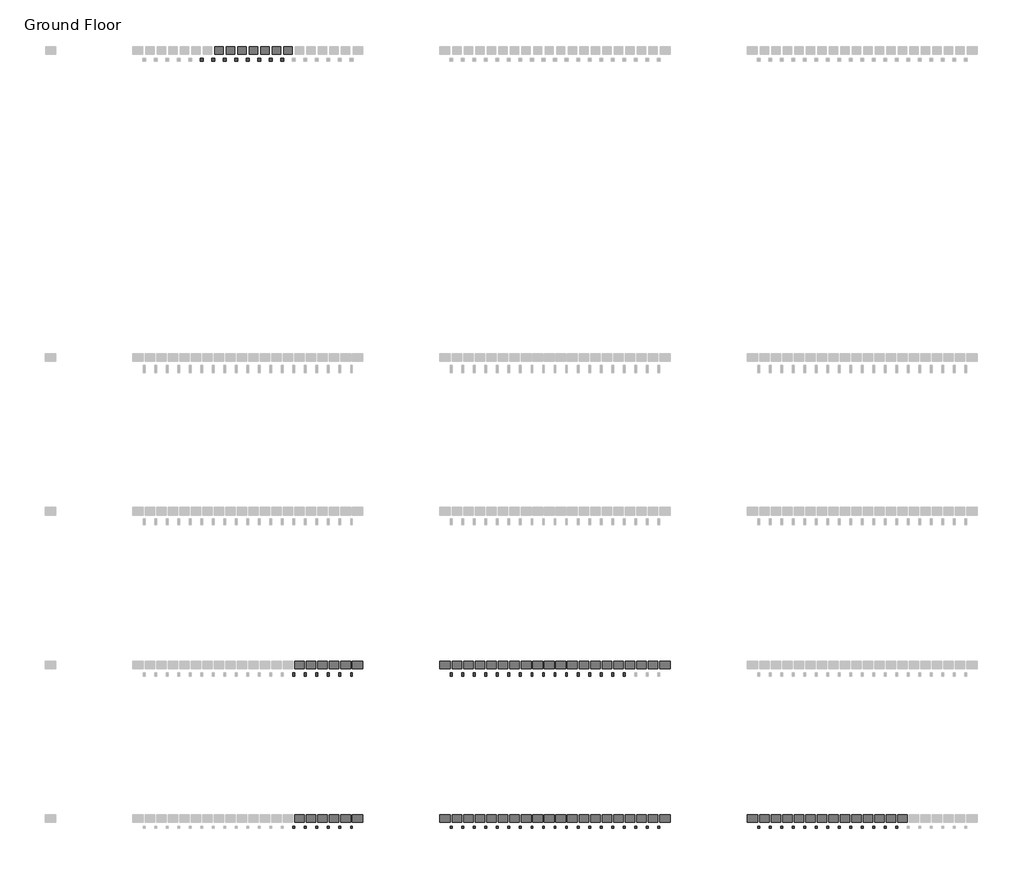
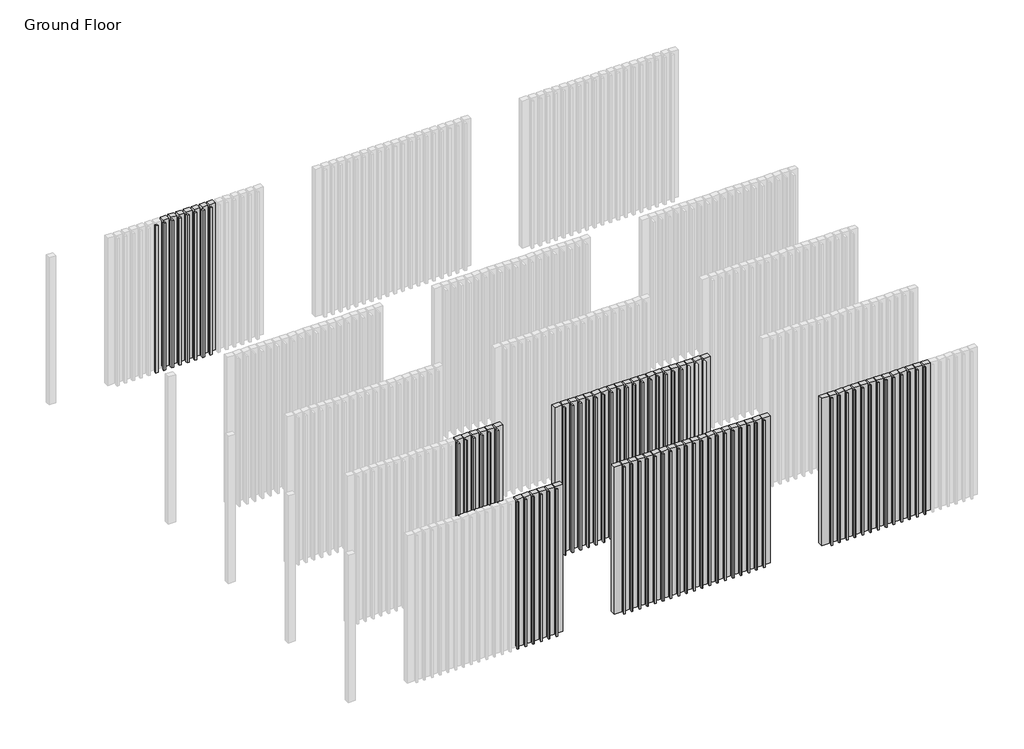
# One storey, part 6 of 350: 73 plates, 68 members.
"""IFC4 building model written with IfcOpenShell, lengths in millimetres."""

from ifc_helpers import new_model, si_unit, origin, place, context, project, spatial, transform, mapped, element, save
from components import rectangular_mullion_ec047115, rectangular_mullion_5535ef50, rectangular_mullion_5b385907, empty_system_panel_empty_db8e642d, empty_system_panel_empty_1b6afc67, empty_system_panel_empty_4d48d162, empty_system_panel_empty_6da6c4cd

model = new_model("IFC4")

# Units and contexts
model_context = context("Model", 3, world=origin())
ifc_project = project(units=[si_unit("LENGTHUNIT", "METRE", prefix="MILLI")], contexts=[model_context])

# Site, building, storey
site = spatial("IfcSite", under=ifc_project)
building = spatial("IfcBuilding", under=site)
storey = spatial("IfcBuildingStorey", under=building, Name="Ground Floor", Elevation=0.0)

# Members
placement = place(None, origin())
rectangular_mullion_shape = rectangular_mullion_ec047115(model_context)
element("IfcMember", 1, ObjectType="Rectangular Mullion : Batten_Aluminium_Modinex_AluBatten_25x25_SpottedGum", at=placement, inside=storey, context=model_context, shape_type="MappedRepresentation", body=[
    mapped(rectangular_mullion_shape, transform((16016.4361642, 4968.2978302, 0.0), x_axis=(1.0, 0.0, 0.0), y_axis=(0.0, -1.0, 0.0), z_axis=(0.0, 0.0, -1.0))),
])
element("IfcMember", 2, ObjectType="Rectangular Mullion : Batten_Aluminium_Modinex_AluBatten_25x25_SpottedGum", at=placement, inside=storey, context=model_context, shape_type="MappedRepresentation", body=[
    mapped(rectangular_mullion_shape, transform((16166.4361642, 4968.2978302, 0.0), x_axis=(1.0, 0.0, 0.0), y_axis=(0.0, -1.0, 0.0), z_axis=(0.0, 0.0, -1.0))),
])
element("IfcMember", 3, ObjectType="Rectangular Mullion : Batten_Aluminium_Modinex_AluBatten_25x25_SpottedGum", at=placement, inside=storey, context=model_context, shape_type="MappedRepresentation", body=[
    mapped(rectangular_mullion_shape, transform((16316.4361642, 4968.2978302, 0.0), x_axis=(1.0, 0.0, 0.0), y_axis=(0.0, -1.0, 0.0), z_axis=(0.0, 0.0, -1.0))),
])
element("IfcMember", 4, ObjectType="Rectangular Mullion : Batten_Aluminium_Modinex_AluBatten_25x25_SpottedGum", at=placement, inside=storey, context=model_context, shape_type="MappedRepresentation", body=[
    mapped(rectangular_mullion_shape, transform((16466.4361642, 4968.2978302, 0.0), x_axis=(1.0, 0.0, 0.0), y_axis=(0.0, -1.0, 0.0), z_axis=(0.0, 0.0, -1.0))),
])
element("IfcMember", 5, ObjectType="Rectangular Mullion : Batten_Aluminium_Modinex_AluBatten_25x25_SpottedGum", at=placement, inside=storey, context=model_context, shape_type="MappedRepresentation", body=[
    mapped(rectangular_mullion_shape, transform((16616.4361642, 4968.2978302, 0.0), x_axis=(1.0, 0.0, 0.0), y_axis=(0.0, -1.0, 0.0), z_axis=(0.0, 0.0, -1.0))),
])
element("IfcMember", 6, ObjectType="Rectangular Mullion : Batten_Aluminium_Modinex_AluBatten_25x25_SpottedGum", at=placement, inside=storey, context=model_context, shape_type="MappedRepresentation", body=[
    mapped(rectangular_mullion_shape, transform((16766.4361642, 4968.2978302, 0.0), x_axis=(1.0, 0.0, 0.0), y_axis=(0.0, -1.0, 0.0), z_axis=(0.0, 0.0, -1.0))),
])
element("IfcMember", 7, ObjectType="Rectangular Mullion : Batten_Aluminium_Modinex_AluBatten_25x25_TasmanianOak", at=placement, inside=storey, context=model_context, shape_type="MappedRepresentation", body=[
    mapped(rectangular_mullion_shape, transform((18066.4361642, 4968.2978302, 0.0), x_axis=(1.0, 0.0, 0.0), y_axis=(0.0, -1.0, 0.0), z_axis=(0.0, 0.0, -1.0))),
])
element("IfcMember", 8, ObjectType="Rectangular Mullion : Batten_Aluminium_Modinex_AluBatten_25x25_TasmanianOak", at=placement, inside=storey, context=model_context, shape_type="MappedRepresentation", body=[
    mapped(rectangular_mullion_shape, transform((18216.4361642, 4968.2978302, 0.0), x_axis=(1.0, 0.0, 0.0), y_axis=(0.0, -1.0, 0.0), z_axis=(0.0, 0.0, -1.0))),
])
element("IfcMember", 9, ObjectType="Rectangular Mullion : Batten_Aluminium_Modinex_AluBatten_25x25_TasmanianOak", at=placement, inside=storey, context=model_context, shape_type="MappedRepresentation", body=[
    mapped(rectangular_mullion_shape, transform((18366.4361642, 4968.2978302, 0.0), x_axis=(1.0, 0.0, 0.0), y_axis=(0.0, -1.0, 0.0), z_axis=(0.0, 0.0, -1.0))),
])
element("IfcMember", 10, ObjectType="Rectangular Mullion : Batten_Aluminium_Modinex_AluBatten_25x25_TasmanianOak", at=placement, inside=storey, context=model_context, shape_type="MappedRepresentation", body=[
    mapped(rectangular_mullion_shape, transform((18516.4361642, 4968.2978302, 0.0), x_axis=(1.0, 0.0, 0.0), y_axis=(0.0, -1.0, 0.0), z_axis=(0.0, 0.0, -1.0))),
])
element("IfcMember", 11, ObjectType="Rectangular Mullion : Batten_Aluminium_Modinex_AluBatten_25x25_TasmanianOak", at=placement, inside=storey, context=model_context, shape_type="MappedRepresentation", body=[
    mapped(rectangular_mullion_shape, transform((18666.4361642, 4968.2978302, 0.0), x_axis=(1.0, 0.0, 0.0), y_axis=(0.0, -1.0, 0.0), z_axis=(0.0, 0.0, -1.0))),
])
element("IfcMember", 12, ObjectType="Rectangular Mullion : Batten_Aluminium_Modinex_AluBatten_25x25_TasmanianOak", at=placement, inside=storey, context=model_context, shape_type="MappedRepresentation", body=[
    mapped(rectangular_mullion_shape, transform((18816.4361642, 4968.2978302, 0.0), x_axis=(1.0, 0.0, 0.0), y_axis=(0.0, -1.0, 0.0), z_axis=(0.0, 0.0, -1.0))),
])
element("IfcMember", 13, ObjectType="Rectangular Mullion : Batten_Aluminium_Modinex_AluBatten_25x25_TasmanianOak", at=placement, inside=storey, context=model_context, shape_type="MappedRepresentation", body=[
    mapped(rectangular_mullion_shape, transform((18966.4361642, 4968.2978302, 0.0), x_axis=(1.0, 0.0, 0.0), y_axis=(0.0, -1.0, 0.0), z_axis=(0.0, 0.0, -1.0))),
])
element("IfcMember", 14, ObjectType="Rectangular Mullion : Batten_Aluminium_Modinex_AluBatten_25x25_TasmanianOak", at=placement, inside=storey, context=model_context, shape_type="MappedRepresentation", body=[
    mapped(rectangular_mullion_shape, transform((19116.4361642, 4968.2978302, 0.0), x_axis=(1.0, 0.0, 0.0), y_axis=(0.0, -1.0, 0.0), z_axis=(0.0, 0.0, -1.0))),
])
element("IfcMember", 15, ObjectType="Rectangular Mullion : Batten_Aluminium_Modinex_AluBatten_25x25_TasmanianOak", at=placement, inside=storey, context=model_context, shape_type="MappedRepresentation", body=[
    mapped(rectangular_mullion_shape, transform((19266.4361642, 4968.2978302, 0.0), x_axis=(1.0, 0.0, 0.0), y_axis=(0.0, -1.0, 0.0), z_axis=(0.0, 0.0, -1.0))),
])
element("IfcMember", 16, ObjectType="Rectangular Mullion : Batten_Aluminium_Modinex_AluBatten_25x25_TasmanianOak", at=placement, inside=storey, context=model_context, shape_type="MappedRepresentation", body=[
    mapped(rectangular_mullion_shape, transform((19416.4361642, 4968.2978302, 0.0), x_axis=(1.0, 0.0, 0.0), y_axis=(0.0, -1.0, 0.0), z_axis=(0.0, 0.0, -1.0))),
])
element("IfcMember", 17, ObjectType="Rectangular Mullion : Batten_Aluminium_Modinex_AluBatten_25x25_TasmanianOak", at=placement, inside=storey, context=model_context, shape_type="MappedRepresentation", body=[
    mapped(rectangular_mullion_shape, transform((19566.4361642, 4968.2978302, 0.0), x_axis=(1.0, 0.0, 0.0), y_axis=(0.0, -1.0, 0.0), z_axis=(0.0, 0.0, -1.0))),
])
element("IfcMember", 18, ObjectType="Rectangular Mullion : Batten_Aluminium_Modinex_AluBatten_25x25_TasmanianOak", at=placement, inside=storey, context=model_context, shape_type="MappedRepresentation", body=[
    mapped(rectangular_mullion_shape, transform((19716.4361642, 4968.2978302, 0.0), x_axis=(1.0, 0.0, 0.0), y_axis=(0.0, -1.0, 0.0), z_axis=(0.0, 0.0, -1.0))),
])
element("IfcMember", 19, ObjectType="Rectangular Mullion : Batten_Aluminium_Modinex_AluBatten_25x25_TasmanianOak", at=placement, inside=storey, context=model_context, shape_type="MappedRepresentation", body=[
    mapped(rectangular_mullion_shape, transform((19866.4361642, 4968.2978302, 0.0), x_axis=(1.0, 0.0, 0.0), y_axis=(0.0, -1.0, 0.0), z_axis=(0.0, 0.0, -1.0))),
])
element("IfcMember", 20, ObjectType="Rectangular Mullion : Batten_Aluminium_Modinex_AluBatten_25x25_TasmanianOak", at=placement, inside=storey, context=model_context, shape_type="MappedRepresentation", body=[
    mapped(rectangular_mullion_shape, transform((20016.4361642, 4968.2978302, 0.0), x_axis=(1.0, 0.0, 0.0), y_axis=(0.0, -1.0, 0.0), z_axis=(0.0, 0.0, -1.0))),
])
element("IfcMember", 21, ObjectType="Rectangular Mullion : Batten_Aluminium_Modinex_AluBatten_25x25_TasmanianOak", at=placement, inside=storey, context=model_context, shape_type="MappedRepresentation", body=[
    mapped(rectangular_mullion_shape, transform((20166.4361642, 4968.2978302, 0.0), x_axis=(1.0, 0.0, 0.0), y_axis=(0.0, -1.0, 0.0), z_axis=(0.0, 0.0, -1.0))),
])
element("IfcMember", 22, ObjectType="Rectangular Mullion : Batten_Aluminium_Modinex_AluBatten_25x25_TasmanianOak", at=placement, inside=storey, context=model_context, shape_type="MappedRepresentation", body=[
    mapped(rectangular_mullion_shape, transform((20316.4361642, 4968.2978302, 0.0), x_axis=(1.0, 0.0, 0.0), y_axis=(0.0, -1.0, 0.0), z_axis=(0.0, 0.0, -1.0))),
])
element("IfcMember", 23, ObjectType="Rectangular Mullion : Batten_Aluminium_Modinex_AluBatten_25x25_TasmanianOak", at=placement, inside=storey, context=model_context, shape_type="MappedRepresentation", body=[
    mapped(rectangular_mullion_shape, transform((20466.4361642, 4968.2978302, 0.0), x_axis=(1.0, 0.0, 0.0), y_axis=(0.0, -1.0, 0.0), z_axis=(0.0, 0.0, -1.0))),
])
element("IfcMember", 24, ObjectType="Rectangular Mullion : Batten_Aluminium_Modinex_AluBatten_25x25_TasmanianOak", at=placement, inside=storey, context=model_context, shape_type="MappedRepresentation", body=[
    mapped(rectangular_mullion_shape, transform((20616.4361642, 4968.2978302, 0.0), x_axis=(1.0, 0.0, 0.0), y_axis=(0.0, -1.0, 0.0), z_axis=(0.0, 0.0, -1.0))),
])
element("IfcMember", 25, ObjectType="Rectangular Mullion : Batten_Aluminium_Modinex_AluBatten_25x25_TasmanianOak", at=placement, inside=storey, context=model_context, shape_type="MappedRepresentation", body=[
    mapped(rectangular_mullion_shape, transform((20766.4361642, 4968.2978302, 0.0), x_axis=(1.0, 0.0, 0.0), y_axis=(0.0, -1.0, 0.0), z_axis=(0.0, 0.0, -1.0))),
])
rectangular_mullion_2_shape = rectangular_mullion_5535ef50(model_context)
element("IfcMember", 26, ObjectType="Rectangular Mullion : Batten_Aluminium_Modinex_AluBatten_25x50_SpottedGum", at=placement, inside=storey, context=model_context, shape_type="MappedRepresentation", body=[
    mapped(rectangular_mullion_2_shape, transform((16016.4361642, 6968.2978302, 0.0), x_axis=(1.0, 0.0, 0.0), y_axis=(0.0, -1.0, 0.0), z_axis=(0.0, 0.0, -1.0))),
])
element("IfcMember", 27, ObjectType="Rectangular Mullion : Batten_Aluminium_Modinex_AluBatten_25x50_SpottedGum", at=placement, inside=storey, context=model_context, shape_type="MappedRepresentation", body=[
    mapped(rectangular_mullion_2_shape, transform((16166.4361642, 6968.2978302, 0.0), x_axis=(1.0, 0.0, 0.0), y_axis=(0.0, -1.0, 0.0), z_axis=(0.0, 0.0, -1.0))),
])
element("IfcMember", 28, ObjectType="Rectangular Mullion : Batten_Aluminium_Modinex_AluBatten_25x50_SpottedGum", at=placement, inside=storey, context=model_context, shape_type="MappedRepresentation", body=[
    mapped(rectangular_mullion_2_shape, transform((16316.4361642, 6968.2978302, 0.0), x_axis=(1.0, 0.0, 0.0), y_axis=(0.0, -1.0, 0.0), z_axis=(0.0, 0.0, -1.0))),
])
element("IfcMember", 29, ObjectType="Rectangular Mullion : Batten_Aluminium_Modinex_AluBatten_25x50_SpottedGum", at=placement, inside=storey, context=model_context, shape_type="MappedRepresentation", body=[
    mapped(rectangular_mullion_2_shape, transform((16466.4361642, 6968.2978302, 0.0), x_axis=(1.0, 0.0, 0.0), y_axis=(0.0, -1.0, 0.0), z_axis=(0.0, 0.0, -1.0))),
])
element("IfcMember", 30, ObjectType="Rectangular Mullion : Batten_Aluminium_Modinex_AluBatten_25x50_SpottedGum", at=placement, inside=storey, context=model_context, shape_type="MappedRepresentation", body=[
    mapped(rectangular_mullion_2_shape, transform((16616.4361642, 6968.2978302, 0.0), x_axis=(1.0, 0.0, 0.0), y_axis=(0.0, -1.0, 0.0), z_axis=(0.0, 0.0, -1.0))),
])
element("IfcMember", 31, ObjectType="Rectangular Mullion : Batten_Aluminium_Modinex_AluBatten_25x50_SpottedGum", at=placement, inside=storey, context=model_context, shape_type="MappedRepresentation", body=[
    mapped(rectangular_mullion_2_shape, transform((16766.4361642, 6968.2978302, 0.0), x_axis=(1.0, 0.0, 0.0), y_axis=(0.0, -1.0, 0.0), z_axis=(0.0, 0.0, -1.0))),
])
element("IfcMember", 32, ObjectType="Rectangular Mullion : Batten_Aluminium_Modinex_AluBatten_25x50_TasmanianOak", at=placement, inside=storey, context=model_context, shape_type="MappedRepresentation", body=[
    mapped(rectangular_mullion_2_shape, transform((18066.4361642, 6968.2978302, 0.0), x_axis=(1.0, 0.0, 0.0), y_axis=(0.0, -1.0, 0.0), z_axis=(0.0, 0.0, -1.0))),
])
element("IfcMember", 33, ObjectType="Rectangular Mullion : Batten_Aluminium_Modinex_AluBatten_25x50_TasmanianOak", at=placement, inside=storey, context=model_context, shape_type="MappedRepresentation", body=[
    mapped(rectangular_mullion_2_shape, transform((18216.4361642, 6968.2978302, 0.0), x_axis=(1.0, 0.0, 0.0), y_axis=(0.0, -1.0, 0.0), z_axis=(0.0, 0.0, -1.0))),
])
element("IfcMember", 34, ObjectType="Rectangular Mullion : Batten_Aluminium_Modinex_AluBatten_25x50_TasmanianOak", at=placement, inside=storey, context=model_context, shape_type="MappedRepresentation", body=[
    mapped(rectangular_mullion_2_shape, transform((18366.4361642, 6968.2978302, 0.0), x_axis=(1.0, 0.0, 0.0), y_axis=(0.0, -1.0, 0.0), z_axis=(0.0, 0.0, -1.0))),
])
element("IfcMember", 35, ObjectType="Rectangular Mullion : Batten_Aluminium_Modinex_AluBatten_25x50_TasmanianOak", at=placement, inside=storey, context=model_context, shape_type="MappedRepresentation", body=[
    mapped(rectangular_mullion_2_shape, transform((18516.4361642, 6968.2978302, 0.0), x_axis=(1.0, 0.0, 0.0), y_axis=(0.0, -1.0, 0.0), z_axis=(0.0, 0.0, -1.0))),
])
element("IfcMember", 36, ObjectType="Rectangular Mullion : Batten_Aluminium_Modinex_AluBatten_25x50_TasmanianOak", at=placement, inside=storey, context=model_context, shape_type="MappedRepresentation", body=[
    mapped(rectangular_mullion_2_shape, transform((18666.4361642, 6968.2978302, 0.0), x_axis=(1.0, 0.0, 0.0), y_axis=(0.0, -1.0, 0.0), z_axis=(0.0, 0.0, -1.0))),
])
element("IfcMember", 37, ObjectType="Rectangular Mullion : Batten_Aluminium_Modinex_AluBatten_25x50_TasmanianOak", at=placement, inside=storey, context=model_context, shape_type="MappedRepresentation", body=[
    mapped(rectangular_mullion_2_shape, transform((18816.4361642, 6968.2978302, 0.0), x_axis=(1.0, 0.0, 0.0), y_axis=(0.0, -1.0, 0.0), z_axis=(0.0, 0.0, -1.0))),
])
element("IfcMember", 38, ObjectType="Rectangular Mullion : Batten_Aluminium_Modinex_AluBatten_25x50_TasmanianOak", at=placement, inside=storey, context=model_context, shape_type="MappedRepresentation", body=[
    mapped(rectangular_mullion_2_shape, transform((18966.4361642, 6968.2978302, 0.0), x_axis=(1.0, 0.0, 0.0), y_axis=(0.0, -1.0, 0.0), z_axis=(0.0, 0.0, -1.0))),
])
element("IfcMember", 39, ObjectType="Rectangular Mullion : Batten_Aluminium_Modinex_AluBatten_25x50_TasmanianOak", at=placement, inside=storey, context=model_context, shape_type="MappedRepresentation", body=[
    mapped(rectangular_mullion_2_shape, transform((19116.4361642, 6968.2978302, 0.0), x_axis=(1.0, 0.0, 0.0), y_axis=(0.0, -1.0, 0.0), z_axis=(0.0, 0.0, -1.0))),
])
element("IfcMember", 40, ObjectType="Rectangular Mullion : Batten_Aluminium_Modinex_AluBatten_25x50_TasmanianOak", at=placement, inside=storey, context=model_context, shape_type="MappedRepresentation", body=[
    mapped(rectangular_mullion_2_shape, transform((19266.4361642, 6968.2978302, 0.0), x_axis=(1.0, 0.0, 0.0), y_axis=(0.0, -1.0, 0.0), z_axis=(0.0, 0.0, -1.0))),
])
element("IfcMember", 41, ObjectType="Rectangular Mullion : Batten_Aluminium_Modinex_AluBatten_25x50_TasmanianOak", at=placement, inside=storey, context=model_context, shape_type="MappedRepresentation", body=[
    mapped(rectangular_mullion_2_shape, transform((19416.4361642, 6968.2978302, 0.0), x_axis=(1.0, 0.0, 0.0), y_axis=(0.0, -1.0, 0.0), z_axis=(0.0, 0.0, -1.0))),
])
element("IfcMember", 42, ObjectType="Rectangular Mullion : Batten_Aluminium_Modinex_AluBatten_25x50_TasmanianOak", at=placement, inside=storey, context=model_context, shape_type="MappedRepresentation", body=[
    mapped(rectangular_mullion_2_shape, transform((19566.4361642, 6968.2978302, 0.0), x_axis=(1.0, 0.0, 0.0), y_axis=(0.0, -1.0, 0.0), z_axis=(0.0, 0.0, -1.0))),
])
element("IfcMember", 43, ObjectType="Rectangular Mullion : Batten_Aluminium_Modinex_AluBatten_25x50_TasmanianOak", at=placement, inside=storey, context=model_context, shape_type="MappedRepresentation", body=[
    mapped(rectangular_mullion_2_shape, transform((19716.4361642, 6968.2978302, 0.0), x_axis=(1.0, 0.0, 0.0), y_axis=(0.0, -1.0, 0.0), z_axis=(0.0, 0.0, -1.0))),
])
element("IfcMember", 44, ObjectType="Rectangular Mullion : Batten_Aluminium_Modinex_AluBatten_25x50_TasmanianOak", at=placement, inside=storey, context=model_context, shape_type="MappedRepresentation", body=[
    mapped(rectangular_mullion_2_shape, transform((19866.4361642, 6968.2978302, 0.0), x_axis=(1.0, 0.0, 0.0), y_axis=(0.0, -1.0, 0.0), z_axis=(0.0, 0.0, -1.0))),
])
element("IfcMember", 45, ObjectType="Rectangular Mullion : Batten_Aluminium_Modinex_AluBatten_25x50_TasmanianOak", at=placement, inside=storey, context=model_context, shape_type="MappedRepresentation", body=[
    mapped(rectangular_mullion_2_shape, transform((20016.4361642, 6968.2978302, 0.0), x_axis=(1.0, 0.0, 0.0), y_axis=(0.0, -1.0, 0.0), z_axis=(0.0, 0.0, -1.0))),
])
element("IfcMember", 46, ObjectType="Rectangular Mullion : Batten_Aluminium_Modinex_AluBatten_25x50_TasmanianOak", at=placement, inside=storey, context=model_context, shape_type="MappedRepresentation", body=[
    mapped(rectangular_mullion_2_shape, transform((20166.4361642, 6968.2978302, 0.0), x_axis=(1.0, 0.0, 0.0), y_axis=(0.0, -1.0, 0.0), z_axis=(0.0, 0.0, -1.0))),
])
element("IfcMember", 47, ObjectType="Rectangular Mullion : Batten_Aluminium_Modinex_AluBatten_25x50_TasmanianOak", at=placement, inside=storey, context=model_context, shape_type="MappedRepresentation", body=[
    mapped(rectangular_mullion_2_shape, transform((20316.4361642, 6968.2978302, 0.0), x_axis=(1.0, 0.0, 0.0), y_axis=(0.0, -1.0, 0.0), z_axis=(0.0, 0.0, -1.0))),
])
rectangular_mullion_3_shape = rectangular_mullion_5b385907(model_context)
element("IfcMember", 48, ObjectType="Rectangular Mullion : Batten_Aluminium_Modinex_AluBatten_40x40_SpottedGum", at=placement, inside=storey, context=model_context, shape_type="MappedRepresentation", body=[
    mapped(rectangular_mullion_3_shape, transform((14816.4361642, 14968.2978302, 0.0), x_axis=(1.0, 0.0, 0.0), y_axis=(0.0, -1.0, 0.0), z_axis=(0.0, 0.0, -1.0))),
])
element("IfcMember", 49, ObjectType="Rectangular Mullion : Batten_Aluminium_Modinex_AluBatten_40x40_SpottedGum", at=placement, inside=storey, context=model_context, shape_type="MappedRepresentation", body=[
    mapped(rectangular_mullion_3_shape, transform((14966.4361642, 14968.2978302, 0.0), x_axis=(1.0, 0.0, 0.0), y_axis=(0.0, -1.0, 0.0), z_axis=(0.0, 0.0, -1.0))),
])
element("IfcMember", 50, ObjectType="Rectangular Mullion : Batten_Aluminium_Modinex_AluBatten_40x40_SpottedGum", at=placement, inside=storey, context=model_context, shape_type="MappedRepresentation", body=[
    mapped(rectangular_mullion_3_shape, transform((15116.4361642, 14968.2978302, 0.0), x_axis=(1.0, 0.0, 0.0), y_axis=(0.0, -1.0, 0.0), z_axis=(0.0, 0.0, -1.0))),
])
element("IfcMember", 51, ObjectType="Rectangular Mullion : Batten_Aluminium_Modinex_AluBatten_40x40_SpottedGum", at=placement, inside=storey, context=model_context, shape_type="MappedRepresentation", body=[
    mapped(rectangular_mullion_3_shape, transform((15266.4361642, 14968.2978302, 0.0), x_axis=(1.0, 0.0, 0.0), y_axis=(0.0, -1.0, 0.0), z_axis=(0.0, 0.0, -1.0))),
])
element("IfcMember", 52, ObjectType="Rectangular Mullion : Batten_Aluminium_Modinex_AluBatten_40x40_SpottedGum", at=placement, inside=storey, context=model_context, shape_type="MappedRepresentation", body=[
    mapped(rectangular_mullion_3_shape, transform((15416.4361642, 14968.2978302, 0.0), x_axis=(1.0, 0.0, 0.0), y_axis=(0.0, -1.0, 0.0), z_axis=(0.0, 0.0, -1.0))),
])
element("IfcMember", 53, ObjectType="Rectangular Mullion : Batten_Aluminium_Modinex_AluBatten_40x40_SpottedGum", at=placement, inside=storey, context=model_context, shape_type="MappedRepresentation", body=[
    mapped(rectangular_mullion_3_shape, transform((15566.4361642, 14968.2978302, 0.0), x_axis=(1.0, 0.0, 0.0), y_axis=(0.0, -1.0, 0.0), z_axis=(0.0, 0.0, -1.0))),
])
element("IfcMember", 54, ObjectType="Rectangular Mullion : Batten_Aluminium_Modinex_AluBatten_40x40_SpottedGum", at=placement, inside=storey, context=model_context, shape_type="MappedRepresentation", body=[
    mapped(rectangular_mullion_3_shape, transform((15716.4361642, 14968.2978302, 0.0), x_axis=(1.0, 0.0, 0.0), y_axis=(0.0, -1.0, 0.0), z_axis=(0.0, 0.0, -1.0))),
])
element("IfcMember", 55, ObjectType="Rectangular Mullion : Batten_Aluminium_Modinex_AluBatten_40x40_SpottedGum", at=placement, inside=storey, context=model_context, shape_type="MappedRepresentation", body=[
    mapped(rectangular_mullion_3_shape, transform((15866.4361642, 14968.2978302, 0.0), x_axis=(1.0, 0.0, 0.0), y_axis=(0.0, -1.0, 0.0), z_axis=(0.0, 0.0, -1.0))),
])
element("IfcMember", 56, ObjectType="Rectangular Mullion : Batten_Aluminium_Modinex_AluBatten_25x25_WhiteOak", at=placement, inside=storey, context=model_context, shape_type="MappedRepresentation", body=[
    mapped(rectangular_mullion_shape, transform((22066.4361642, 4968.2978302, 0.0), x_axis=(1.0, 0.0, 0.0), y_axis=(0.0, -1.0, 0.0), z_axis=(0.0, 0.0, -1.0))),
])
element("IfcMember", 57, ObjectType="Rectangular Mullion : Batten_Aluminium_Modinex_AluBatten_25x25_WhiteOak", at=placement, inside=storey, context=model_context, shape_type="MappedRepresentation", body=[
    mapped(rectangular_mullion_shape, transform((22216.4361642, 4968.2978302, 0.0), x_axis=(1.0, 0.0, 0.0), y_axis=(0.0, -1.0, 0.0), z_axis=(0.0, 0.0, -1.0))),
])
element("IfcMember", 58, ObjectType="Rectangular Mullion : Batten_Aluminium_Modinex_AluBatten_25x25_WhiteOak", at=placement, inside=storey, context=model_context, shape_type="MappedRepresentation", body=[
    mapped(rectangular_mullion_shape, transform((22366.4361642, 4968.2978302, 0.0), x_axis=(1.0, 0.0, 0.0), y_axis=(0.0, -1.0, 0.0), z_axis=(0.0, 0.0, -1.0))),
])
element("IfcMember", 59, ObjectType="Rectangular Mullion : Batten_Aluminium_Modinex_AluBatten_25x25_WhiteOak", at=placement, inside=storey, context=model_context, shape_type="MappedRepresentation", body=[
    mapped(rectangular_mullion_shape, transform((22516.4361642, 4968.2978302, 0.0), x_axis=(1.0, 0.0, 0.0), y_axis=(0.0, -1.0, 0.0), z_axis=(0.0, 0.0, -1.0))),
])
element("IfcMember", 60, ObjectType="Rectangular Mullion : Batten_Aluminium_Modinex_AluBatten_25x25_WhiteOak", at=placement, inside=storey, context=model_context, shape_type="MappedRepresentation", body=[
    mapped(rectangular_mullion_shape, transform((22666.4361642, 4968.2978302, 0.0), x_axis=(1.0, 0.0, 0.0), y_axis=(0.0, -1.0, 0.0), z_axis=(0.0, 0.0, -1.0))),
])
element("IfcMember", 61, ObjectType="Rectangular Mullion : Batten_Aluminium_Modinex_AluBatten_25x25_WhiteOak", at=placement, inside=storey, context=model_context, shape_type="MappedRepresentation", body=[
    mapped(rectangular_mullion_shape, transform((22816.4361642, 4968.2978302, 0.0), x_axis=(1.0, 0.0, 0.0), y_axis=(0.0, -1.0, 0.0), z_axis=(0.0, 0.0, -1.0))),
])
element("IfcMember", 62, ObjectType="Rectangular Mullion : Batten_Aluminium_Modinex_AluBatten_25x25_WhiteOak", at=placement, inside=storey, context=model_context, shape_type="MappedRepresentation", body=[
    mapped(rectangular_mullion_shape, transform((22966.4361642, 4968.2978302, 0.0), x_axis=(1.0, 0.0, 0.0), y_axis=(0.0, -1.0, 0.0), z_axis=(0.0, 0.0, -1.0))),
])
element("IfcMember", 63, ObjectType="Rectangular Mullion : Batten_Aluminium_Modinex_AluBatten_25x25_WhiteOak", at=placement, inside=storey, context=model_context, shape_type="MappedRepresentation", body=[
    mapped(rectangular_mullion_shape, transform((23116.4361642, 4968.2978302, 0.0), x_axis=(1.0, 0.0, 0.0), y_axis=(0.0, -1.0, 0.0), z_axis=(0.0, 0.0, -1.0))),
])
element("IfcMember", 64, ObjectType="Rectangular Mullion : Batten_Aluminium_Modinex_AluBatten_25x25_WhiteOak", at=placement, inside=storey, context=model_context, shape_type="MappedRepresentation", body=[
    mapped(rectangular_mullion_shape, transform((23266.4361642, 4968.2978302, 0.0), x_axis=(1.0, 0.0, 0.0), y_axis=(0.0, -1.0, 0.0), z_axis=(0.0, 0.0, -1.0))),
])
element("IfcMember", 65, ObjectType="Rectangular Mullion : Batten_Aluminium_Modinex_AluBatten_25x25_WhiteOak", at=placement, inside=storey, context=model_context, shape_type="MappedRepresentation", body=[
    mapped(rectangular_mullion_shape, transform((23416.4361642, 4968.2978302, 0.0), x_axis=(1.0, 0.0, 0.0), y_axis=(0.0, -1.0, 0.0), z_axis=(0.0, 0.0, -1.0))),
])
element("IfcMember", 66, ObjectType="Rectangular Mullion : Batten_Aluminium_Modinex_AluBatten_25x25_WhiteOak", at=placement, inside=storey, context=model_context, shape_type="MappedRepresentation", body=[
    mapped(rectangular_mullion_shape, transform((23566.4361642, 4968.2978302, 0.0), x_axis=(1.0, 0.0, 0.0), y_axis=(0.0, -1.0, 0.0), z_axis=(0.0, 0.0, -1.0))),
])
element("IfcMember", 67, ObjectType="Rectangular Mullion : Batten_Aluminium_Modinex_AluBatten_25x25_WhiteOak", at=placement, inside=storey, context=model_context, shape_type="MappedRepresentation", body=[
    mapped(rectangular_mullion_shape, transform((23716.4361642, 4968.2978302, 0.0), x_axis=(1.0, 0.0, 0.0), y_axis=(0.0, -1.0, 0.0), z_axis=(0.0, 0.0, -1.0))),
])
element("IfcMember", 68, ObjectType="Rectangular Mullion : Batten_Aluminium_Modinex_AluBatten_25x25_WhiteOak", at=placement, inside=storey, context=model_context, shape_type="MappedRepresentation", body=[
    mapped(rectangular_mullion_shape, transform((23866.4361642, 4968.2978302, 0.0), x_axis=(1.0, 0.0, 0.0), y_axis=(0.0, -1.0, 0.0), z_axis=(0.0, 0.0, -1.0))),
])

# Plates
empty_system_panel_empty_shape = empty_system_panel_empty_db8e642d(model_context)
element("IfcPlate", 69, ObjectType="Empty System Panel : Empty", at=placement, inside=storey, context=model_context, shape_type="MappedRepresentation", body=[
    mapped(empty_system_panel_empty_shape, transform((17985.1861641, 4968.2978302, 0.0), x_axis=(1.0, 0.0, 0.0), y_axis=(0.0, 1.0, 0.0), z_axis=(0.0, 0.0, 1.0))),
])
element("IfcPlate", 70, ObjectType="Empty System Panel : Empty", at=placement, inside=storey, context=model_context, shape_type="MappedRepresentation", body=[
    mapped(empty_system_panel_empty_shape, transform((17985.1861641, 6968.2978302, 0.0), x_axis=(1.0, 0.0, 0.0), y_axis=(0.0, 1.0, 0.0), z_axis=(0.0, 0.0, 1.0))),
])
element("IfcPlate", 71, ObjectType="Empty System Panel : Empty", at=placement, inside=storey, context=model_context, shape_type="MappedRepresentation", body=[
    mapped(empty_system_panel_empty_shape, transform((21985.1861641, 4968.2978302, 0.0), x_axis=(1.0, 0.0, 0.0), y_axis=(0.0, 1.0, 0.0), z_axis=(0.0, 0.0, 1.0))),
])
empty_system_panel_empty_2_shape = empty_system_panel_empty_1b6afc67(model_context)
element("IfcPlate", 72, ObjectType="Empty System Panel : Empty", at=placement, inside=storey, context=model_context, shape_type="MappedRepresentation", body=[
    mapped(empty_system_panel_empty_2_shape, transform((16091.4361642, 4968.2978302, 0.0), x_axis=(1.0, 0.0, 0.0), y_axis=(0.0, 1.0, 0.0), z_axis=(0.0, 0.0, 1.0))),
])
element("IfcPlate", 73, ObjectType="Empty System Panel : Empty", at=placement, inside=storey, context=model_context, shape_type="MappedRepresentation", body=[
    mapped(empty_system_panel_empty_2_shape, transform((16241.4361642, 4968.2978302, 0.0), x_axis=(1.0, 0.0, 0.0), y_axis=(0.0, 1.0, 0.0), z_axis=(0.0, 0.0, 1.0))),
])
element("IfcPlate", 74, ObjectType="Empty System Panel : Empty", at=placement, inside=storey, context=model_context, shape_type="MappedRepresentation", body=[
    mapped(empty_system_panel_empty_2_shape, transform((16391.4361642, 4968.2978302, 0.0), x_axis=(1.0, 0.0, 0.0), y_axis=(0.0, 1.0, 0.0), z_axis=(0.0, 0.0, 1.0))),
])
element("IfcPlate", 75, ObjectType="Empty System Panel : Empty", at=placement, inside=storey, context=model_context, shape_type="MappedRepresentation", body=[
    mapped(empty_system_panel_empty_2_shape, transform((16541.4361642, 4968.2978302, 0.0), x_axis=(1.0, 0.0, 0.0), y_axis=(0.0, 1.0, 0.0), z_axis=(0.0, 0.0, 1.0))),
])
element("IfcPlate", 76, ObjectType="Empty System Panel : Empty", at=placement, inside=storey, context=model_context, shape_type="MappedRepresentation", body=[
    mapped(empty_system_panel_empty_2_shape, transform((16691.4361642, 4968.2978302, 0.0), x_axis=(1.0, 0.0, 0.0), y_axis=(0.0, 1.0, 0.0), z_axis=(0.0, 0.0, 1.0))),
])
element("IfcPlate", 77, ObjectType="Empty System Panel : Empty", at=placement, inside=storey, context=model_context, shape_type="MappedRepresentation", body=[
    mapped(empty_system_panel_empty_2_shape, transform((18141.4361642, 4968.2978302, 0.0), x_axis=(1.0, 0.0, 0.0), y_axis=(0.0, 1.0, 0.0), z_axis=(0.0, 0.0, 1.0))),
])
element("IfcPlate", 78, ObjectType="Empty System Panel : Empty", at=placement, inside=storey, context=model_context, shape_type="MappedRepresentation", body=[
    mapped(empty_system_panel_empty_2_shape, transform((18291.4361642, 4968.2978302, 0.0), x_axis=(1.0, 0.0, 0.0), y_axis=(0.0, 1.0, 0.0), z_axis=(0.0, 0.0, 1.0))),
])
element("IfcPlate", 79, ObjectType="Empty System Panel : Empty", at=placement, inside=storey, context=model_context, shape_type="MappedRepresentation", body=[
    mapped(empty_system_panel_empty_2_shape, transform((18441.4361642, 4968.2978302, 0.0), x_axis=(1.0, 0.0, 0.0), y_axis=(0.0, 1.0, 0.0), z_axis=(0.0, 0.0, 1.0))),
])
element("IfcPlate", 80, ObjectType="Empty System Panel : Empty", at=placement, inside=storey, context=model_context, shape_type="MappedRepresentation", body=[
    mapped(empty_system_panel_empty_2_shape, transform((18591.4361642, 4968.2978302, 0.0), x_axis=(1.0, 0.0, 0.0), y_axis=(0.0, 1.0, 0.0), z_axis=(0.0, 0.0, 1.0))),
])
element("IfcPlate", 81, ObjectType="Empty System Panel : Empty", at=placement, inside=storey, context=model_context, shape_type="MappedRepresentation", body=[
    mapped(empty_system_panel_empty_2_shape, transform((18741.4361642, 4968.2978302, 0.0), x_axis=(1.0, 0.0, 0.0), y_axis=(0.0, 1.0, 0.0), z_axis=(0.0, 0.0, 1.0))),
])
element("IfcPlate", 82, ObjectType="Empty System Panel : Empty", at=placement, inside=storey, context=model_context, shape_type="MappedRepresentation", body=[
    mapped(empty_system_panel_empty_2_shape, transform((18891.4361642, 4968.2978302, 0.0), x_axis=(1.0, 0.0, 0.0), y_axis=(0.0, 1.0, 0.0), z_axis=(0.0, 0.0, 1.0))),
])
element("IfcPlate", 83, ObjectType="Empty System Panel : Empty", at=placement, inside=storey, context=model_context, shape_type="MappedRepresentation", body=[
    mapped(empty_system_panel_empty_2_shape, transform((19041.4361642, 4968.2978302, 0.0), x_axis=(1.0, 0.0, 0.0), y_axis=(0.0, 1.0, 0.0), z_axis=(0.0, 0.0, 1.0))),
])
element("IfcPlate", 84, ObjectType="Empty System Panel : Empty", at=placement, inside=storey, context=model_context, shape_type="MappedRepresentation", body=[
    mapped(empty_system_panel_empty_2_shape, transform((19191.4361642, 4968.2978302, 0.0), x_axis=(1.0, 0.0, 0.0), y_axis=(0.0, 1.0, 0.0), z_axis=(0.0, 0.0, 1.0))),
])
element("IfcPlate", 85, ObjectType="Empty System Panel : Empty", at=placement, inside=storey, context=model_context, shape_type="MappedRepresentation", body=[
    mapped(empty_system_panel_empty_2_shape, transform((19341.4361642, 4968.2978302, 0.0), x_axis=(1.0, 0.0, 0.0), y_axis=(0.0, 1.0, 0.0), z_axis=(0.0, 0.0, 1.0))),
])
element("IfcPlate", 86, ObjectType="Empty System Panel : Empty", at=placement, inside=storey, context=model_context, shape_type="MappedRepresentation", body=[
    mapped(empty_system_panel_empty_2_shape, transform((19491.4361642, 4968.2978302, 0.0), x_axis=(1.0, 0.0, 0.0), y_axis=(0.0, 1.0, 0.0), z_axis=(0.0, 0.0, 1.0))),
])
element("IfcPlate", 87, ObjectType="Empty System Panel : Empty", at=placement, inside=storey, context=model_context, shape_type="MappedRepresentation", body=[
    mapped(empty_system_panel_empty_2_shape, transform((19641.4361642, 4968.2978302, 0.0), x_axis=(1.0, 0.0, 0.0), y_axis=(0.0, 1.0, 0.0), z_axis=(0.0, 0.0, 1.0))),
])
element("IfcPlate", 88, ObjectType="Empty System Panel : Empty", at=placement, inside=storey, context=model_context, shape_type="MappedRepresentation", body=[
    mapped(empty_system_panel_empty_2_shape, transform((19791.4361642, 4968.2978302, 0.0), x_axis=(1.0, 0.0, 0.0), y_axis=(0.0, 1.0, 0.0), z_axis=(0.0, 0.0, 1.0))),
])
element("IfcPlate", 89, ObjectType="Empty System Panel : Empty", at=placement, inside=storey, context=model_context, shape_type="MappedRepresentation", body=[
    mapped(empty_system_panel_empty_2_shape, transform((19941.4361642, 4968.2978302, 0.0), x_axis=(1.0, 0.0, 0.0), y_axis=(0.0, 1.0, 0.0), z_axis=(0.0, 0.0, 1.0))),
])
element("IfcPlate", 90, ObjectType="Empty System Panel : Empty", at=placement, inside=storey, context=model_context, shape_type="MappedRepresentation", body=[
    mapped(empty_system_panel_empty_2_shape, transform((20091.4361642, 4968.2978302, 0.0), x_axis=(1.0, 0.0, 0.0), y_axis=(0.0, 1.0, 0.0), z_axis=(0.0, 0.0, 1.0))),
])
element("IfcPlate", 91, ObjectType="Empty System Panel : Empty", at=placement, inside=storey, context=model_context, shape_type="MappedRepresentation", body=[
    mapped(empty_system_panel_empty_2_shape, transform((20241.4361642, 4968.2978302, 0.0), x_axis=(1.0, 0.0, 0.0), y_axis=(0.0, 1.0, 0.0), z_axis=(0.0, 0.0, 1.0))),
])
element("IfcPlate", 92, ObjectType="Empty System Panel : Empty", at=placement, inside=storey, context=model_context, shape_type="MappedRepresentation", body=[
    mapped(empty_system_panel_empty_2_shape, transform((20391.4361642, 4968.2978302, 0.0), x_axis=(1.0, 0.0, 0.0), y_axis=(0.0, 1.0, 0.0), z_axis=(0.0, 0.0, 1.0))),
])
element("IfcPlate", 93, ObjectType="Empty System Panel : Empty", at=placement, inside=storey, context=model_context, shape_type="MappedRepresentation", body=[
    mapped(empty_system_panel_empty_2_shape, transform((20541.4361642, 4968.2978302, 0.0), x_axis=(1.0, 0.0, 0.0), y_axis=(0.0, 1.0, 0.0), z_axis=(0.0, 0.0, 1.0))),
])
element("IfcPlate", 94, ObjectType="Empty System Panel : Empty", at=placement, inside=storey, context=model_context, shape_type="MappedRepresentation", body=[
    mapped(empty_system_panel_empty_2_shape, transform((20691.4361642, 4968.2978302, 0.0), x_axis=(1.0, 0.0, 0.0), y_axis=(0.0, 1.0, 0.0), z_axis=(0.0, 0.0, 1.0))),
])
element("IfcPlate", 95, ObjectType="Empty System Panel : Empty", at=placement, inside=storey, context=model_context, shape_type="MappedRepresentation", body=[
    mapped(empty_system_panel_empty_2_shape, transform((16091.4361642, 6968.2978302, 0.0), x_axis=(1.0, 0.0, 0.0), y_axis=(0.0, 1.0, 0.0), z_axis=(0.0, 0.0, 1.0))),
])
element("IfcPlate", 96, ObjectType="Empty System Panel : Empty", at=placement, inside=storey, context=model_context, shape_type="MappedRepresentation", body=[
    mapped(empty_system_panel_empty_2_shape, transform((16241.4361642, 6968.2978302, 0.0), x_axis=(1.0, 0.0, 0.0), y_axis=(0.0, 1.0, 0.0), z_axis=(0.0, 0.0, 1.0))),
])
element("IfcPlate", 97, ObjectType="Empty System Panel : Empty", at=placement, inside=storey, context=model_context, shape_type="MappedRepresentation", body=[
    mapped(empty_system_panel_empty_2_shape, transform((16391.4361642, 6968.2978302, 0.0), x_axis=(1.0, 0.0, 0.0), y_axis=(0.0, 1.0, 0.0), z_axis=(0.0, 0.0, 1.0))),
])
element("IfcPlate", 98, ObjectType="Empty System Panel : Empty", at=placement, inside=storey, context=model_context, shape_type="MappedRepresentation", body=[
    mapped(empty_system_panel_empty_2_shape, transform((16541.4361642, 6968.2978302, 0.0), x_axis=(1.0, 0.0, 0.0), y_axis=(0.0, 1.0, 0.0), z_axis=(0.0, 0.0, 1.0))),
])
element("IfcPlate", 99, ObjectType="Empty System Panel : Empty", at=placement, inside=storey, context=model_context, shape_type="MappedRepresentation", body=[
    mapped(empty_system_panel_empty_2_shape, transform((16691.4361642, 6968.2978302, 0.0), x_axis=(1.0, 0.0, 0.0), y_axis=(0.0, 1.0, 0.0), z_axis=(0.0, 0.0, 1.0))),
])
element("IfcPlate", 100, ObjectType="Empty System Panel : Empty", at=placement, inside=storey, context=model_context, shape_type="MappedRepresentation", body=[
    mapped(empty_system_panel_empty_2_shape, transform((18141.4361642, 6968.2978302, 0.0), x_axis=(1.0, 0.0, 0.0), y_axis=(0.0, 1.0, 0.0), z_axis=(0.0, 0.0, 1.0))),
])
element("IfcPlate", 101, ObjectType="Empty System Panel : Empty", at=placement, inside=storey, context=model_context, shape_type="MappedRepresentation", body=[
    mapped(empty_system_panel_empty_2_shape, transform((18291.4361642, 6968.2978302, 0.0), x_axis=(1.0, 0.0, 0.0), y_axis=(0.0, 1.0, 0.0), z_axis=(0.0, 0.0, 1.0))),
])
element("IfcPlate", 102, ObjectType="Empty System Panel : Empty", at=placement, inside=storey, context=model_context, shape_type="MappedRepresentation", body=[
    mapped(empty_system_panel_empty_2_shape, transform((18441.4361642, 6968.2978302, 0.0), x_axis=(1.0, 0.0, 0.0), y_axis=(0.0, 1.0, 0.0), z_axis=(0.0, 0.0, 1.0))),
])
element("IfcPlate", 103, ObjectType="Empty System Panel : Empty", at=placement, inside=storey, context=model_context, shape_type="MappedRepresentation", body=[
    mapped(empty_system_panel_empty_2_shape, transform((18591.4361642, 6968.2978302, 0.0), x_axis=(1.0, 0.0, 0.0), y_axis=(0.0, 1.0, 0.0), z_axis=(0.0, 0.0, 1.0))),
])
element("IfcPlate", 104, ObjectType="Empty System Panel : Empty", at=placement, inside=storey, context=model_context, shape_type="MappedRepresentation", body=[
    mapped(empty_system_panel_empty_2_shape, transform((18741.4361642, 6968.2978302, 0.0), x_axis=(1.0, 0.0, 0.0), y_axis=(0.0, 1.0, 0.0), z_axis=(0.0, 0.0, 1.0))),
])
element("IfcPlate", 105, ObjectType="Empty System Panel : Empty", at=placement, inside=storey, context=model_context, shape_type="MappedRepresentation", body=[
    mapped(empty_system_panel_empty_2_shape, transform((18891.4361642, 6968.2978302, 0.0), x_axis=(1.0, 0.0, 0.0), y_axis=(0.0, 1.0, 0.0), z_axis=(0.0, 0.0, 1.0))),
])
element("IfcPlate", 106, ObjectType="Empty System Panel : Empty", at=placement, inside=storey, context=model_context, shape_type="MappedRepresentation", body=[
    mapped(empty_system_panel_empty_2_shape, transform((19041.4361642, 6968.2978302, 0.0), x_axis=(1.0, 0.0, 0.0), y_axis=(0.0, 1.0, 0.0), z_axis=(0.0, 0.0, 1.0))),
])
element("IfcPlate", 107, ObjectType="Empty System Panel : Empty", at=placement, inside=storey, context=model_context, shape_type="MappedRepresentation", body=[
    mapped(empty_system_panel_empty_2_shape, transform((19191.4361642, 6968.2978302, 0.0), x_axis=(1.0, 0.0, 0.0), y_axis=(0.0, 1.0, 0.0), z_axis=(0.0, 0.0, 1.0))),
])
element("IfcPlate", 108, ObjectType="Empty System Panel : Empty", at=placement, inside=storey, context=model_context, shape_type="MappedRepresentation", body=[
    mapped(empty_system_panel_empty_2_shape, transform((19341.4361642, 6968.2978302, 0.0), x_axis=(1.0, 0.0, 0.0), y_axis=(0.0, 1.0, 0.0), z_axis=(0.0, 0.0, 1.0))),
])
element("IfcPlate", 109, ObjectType="Empty System Panel : Empty", at=placement, inside=storey, context=model_context, shape_type="MappedRepresentation", body=[
    mapped(empty_system_panel_empty_2_shape, transform((19491.4361642, 6968.2978302, 0.0), x_axis=(1.0, 0.0, 0.0), y_axis=(0.0, 1.0, 0.0), z_axis=(0.0, 0.0, 1.0))),
])
element("IfcPlate", 110, ObjectType="Empty System Panel : Empty", at=placement, inside=storey, context=model_context, shape_type="MappedRepresentation", body=[
    mapped(empty_system_panel_empty_2_shape, transform((19641.4361642, 6968.2978302, 0.0), x_axis=(1.0, 0.0, 0.0), y_axis=(0.0, 1.0, 0.0), z_axis=(0.0, 0.0, 1.0))),
])
element("IfcPlate", 111, ObjectType="Empty System Panel : Empty", at=placement, inside=storey, context=model_context, shape_type="MappedRepresentation", body=[
    mapped(empty_system_panel_empty_2_shape, transform((19791.4361642, 6968.2978302, 0.0), x_axis=(1.0, 0.0, 0.0), y_axis=(0.0, 1.0, 0.0), z_axis=(0.0, 0.0, 1.0))),
])
element("IfcPlate", 112, ObjectType="Empty System Panel : Empty", at=placement, inside=storey, context=model_context, shape_type="MappedRepresentation", body=[
    mapped(empty_system_panel_empty_2_shape, transform((19941.4361642, 6968.2978302, 0.0), x_axis=(1.0, 0.0, 0.0), y_axis=(0.0, 1.0, 0.0), z_axis=(0.0, 0.0, 1.0))),
])
element("IfcPlate", 113, ObjectType="Empty System Panel : Empty", at=placement, inside=storey, context=model_context, shape_type="MappedRepresentation", body=[
    mapped(empty_system_panel_empty_2_shape, transform((20091.4361642, 6968.2978302, 0.0), x_axis=(1.0, 0.0, 0.0), y_axis=(0.0, 1.0, 0.0), z_axis=(0.0, 0.0, 1.0))),
])
element("IfcPlate", 114, ObjectType="Empty System Panel : Empty", at=placement, inside=storey, context=model_context, shape_type="MappedRepresentation", body=[
    mapped(empty_system_panel_empty_2_shape, transform((20241.4361642, 6968.2978302, 0.0), x_axis=(1.0, 0.0, 0.0), y_axis=(0.0, 1.0, 0.0), z_axis=(0.0, 0.0, 1.0))),
])
element("IfcPlate", 115, ObjectType="Empty System Panel : Empty", at=placement, inside=storey, context=model_context, shape_type="MappedRepresentation", body=[
    mapped(empty_system_panel_empty_2_shape, transform((20391.4361642, 6968.2978302, 0.0), x_axis=(1.0, 0.0, 0.0), y_axis=(0.0, 1.0, 0.0), z_axis=(0.0, 0.0, 1.0))),
])
element("IfcPlate", 116, ObjectType="Empty System Panel : Empty", at=placement, inside=storey, context=model_context, shape_type="MappedRepresentation", body=[
    mapped(empty_system_panel_empty_2_shape, transform((20541.4361642, 6968.2978302, 0.0), x_axis=(1.0, 0.0, 0.0), y_axis=(0.0, 1.0, 0.0), z_axis=(0.0, 0.0, 1.0))),
])
element("IfcPlate", 117, ObjectType="Empty System Panel : Empty", at=placement, inside=storey, context=model_context, shape_type="MappedRepresentation", body=[
    mapped(empty_system_panel_empty_2_shape, transform((20691.4361642, 6968.2978302, 0.0), x_axis=(1.0, 0.0, 0.0), y_axis=(0.0, 1.0, 0.0), z_axis=(0.0, 0.0, 1.0))),
])
element("IfcPlate", 118, ObjectType="Empty System Panel : Empty", at=placement, inside=storey, context=model_context, shape_type="MappedRepresentation", body=[
    mapped(empty_system_panel_empty_2_shape, transform((22141.4361642, 4968.2978302, 0.0), x_axis=(1.0, 0.0, 0.0), y_axis=(0.0, 1.0, 0.0), z_axis=(0.0, 0.0, 1.0))),
])
element("IfcPlate", 119, ObjectType="Empty System Panel : Empty", at=placement, inside=storey, context=model_context, shape_type="MappedRepresentation", body=[
    mapped(empty_system_panel_empty_2_shape, transform((22291.4361642, 4968.2978302, 0.0), x_axis=(1.0, 0.0, 0.0), y_axis=(0.0, 1.0, 0.0), z_axis=(0.0, 0.0, 1.0))),
])
element("IfcPlate", 120, ObjectType="Empty System Panel : Empty", at=placement, inside=storey, context=model_context, shape_type="MappedRepresentation", body=[
    mapped(empty_system_panel_empty_2_shape, transform((22441.4361642, 4968.2978302, 0.0), x_axis=(1.0, 0.0, 0.0), y_axis=(0.0, 1.0, 0.0), z_axis=(0.0, 0.0, 1.0))),
])
element("IfcPlate", 121, ObjectType="Empty System Panel : Empty", at=placement, inside=storey, context=model_context, shape_type="MappedRepresentation", body=[
    mapped(empty_system_panel_empty_2_shape, transform((22591.4361642, 4968.2978302, 0.0), x_axis=(1.0, 0.0, 0.0), y_axis=(0.0, 1.0, 0.0), z_axis=(0.0, 0.0, 1.0))),
])
element("IfcPlate", 122, ObjectType="Empty System Panel : Empty", at=placement, inside=storey, context=model_context, shape_type="MappedRepresentation", body=[
    mapped(empty_system_panel_empty_2_shape, transform((22741.4361642, 4968.2978302, 0.0), x_axis=(1.0, 0.0, 0.0), y_axis=(0.0, 1.0, 0.0), z_axis=(0.0, 0.0, 1.0))),
])
element("IfcPlate", 123, ObjectType="Empty System Panel : Empty", at=placement, inside=storey, context=model_context, shape_type="MappedRepresentation", body=[
    mapped(empty_system_panel_empty_2_shape, transform((22891.4361642, 4968.2978302, 0.0), x_axis=(1.0, 0.0, 0.0), y_axis=(0.0, 1.0, 0.0), z_axis=(0.0, 0.0, 1.0))),
])
element("IfcPlate", 124, ObjectType="Empty System Panel : Empty", at=placement, inside=storey, context=model_context, shape_type="MappedRepresentation", body=[
    mapped(empty_system_panel_empty_2_shape, transform((23041.4361642, 4968.2978302, 0.0), x_axis=(1.0, 0.0, 0.0), y_axis=(0.0, 1.0, 0.0), z_axis=(0.0, 0.0, 1.0))),
])
element("IfcPlate", 125, ObjectType="Empty System Panel : Empty", at=placement, inside=storey, context=model_context, shape_type="MappedRepresentation", body=[
    mapped(empty_system_panel_empty_2_shape, transform((23191.4361642, 4968.2978302, 0.0), x_axis=(1.0, 0.0, 0.0), y_axis=(0.0, 1.0, 0.0), z_axis=(0.0, 0.0, 1.0))),
])
element("IfcPlate", 126, ObjectType="Empty System Panel : Empty", at=placement, inside=storey, context=model_context, shape_type="MappedRepresentation", body=[
    mapped(empty_system_panel_empty_2_shape, transform((23341.4361642, 4968.2978302, 0.0), x_axis=(1.0, 0.0, 0.0), y_axis=(0.0, 1.0, 0.0), z_axis=(0.0, 0.0, 1.0))),
])
element("IfcPlate", 127, ObjectType="Empty System Panel : Empty", at=placement, inside=storey, context=model_context, shape_type="MappedRepresentation", body=[
    mapped(empty_system_panel_empty_2_shape, transform((23491.4361642, 4968.2978302, 0.0), x_axis=(1.0, 0.0, 0.0), y_axis=(0.0, 1.0, 0.0), z_axis=(0.0, 0.0, 1.0))),
])
element("IfcPlate", 128, ObjectType="Empty System Panel : Empty", at=placement, inside=storey, context=model_context, shape_type="MappedRepresentation", body=[
    mapped(empty_system_panel_empty_2_shape, transform((23641.4361642, 4968.2978302, 0.0), x_axis=(1.0, 0.0, 0.0), y_axis=(0.0, 1.0, 0.0), z_axis=(0.0, 0.0, 1.0))),
])
element("IfcPlate", 129, ObjectType="Empty System Panel : Empty", at=placement, inside=storey, context=model_context, shape_type="MappedRepresentation", body=[
    mapped(empty_system_panel_empty_2_shape, transform((23791.4361642, 4968.2978302, 0.0), x_axis=(1.0, 0.0, 0.0), y_axis=(0.0, 1.0, 0.0), z_axis=(0.0, 0.0, 1.0))),
])
element("IfcPlate", 130, ObjectType="Empty System Panel : Empty", at=placement, inside=storey, context=model_context, shape_type="MappedRepresentation", body=[
    mapped(empty_system_panel_empty_2_shape, transform((23941.4361642, 4968.2978302, 0.0), x_axis=(1.0, 0.0, 0.0), y_axis=(0.0, 1.0, 0.0), z_axis=(0.0, 0.0, 1.0))),
])
empty_system_panel_empty_3_shape = empty_system_panel_empty_4d48d162(model_context)
element("IfcPlate", 131, ObjectType="Empty System Panel : Empty", at=placement, inside=storey, context=model_context, shape_type="MappedRepresentation", body=[
    mapped(empty_system_panel_empty_3_shape, transform((16847.6861641, 4968.2978302, 0.0), x_axis=(1.0, 0.0, 0.0), y_axis=(0.0, 1.0, 0.0), z_axis=(0.0, 0.0, 1.0))),
])
element("IfcPlate", 132, ObjectType="Empty System Panel : Empty", at=placement, inside=storey, context=model_context, shape_type="MappedRepresentation", body=[
    mapped(empty_system_panel_empty_3_shape, transform((20847.6861641, 4968.2978302, 0.0), x_axis=(1.0, 0.0, 0.0), y_axis=(0.0, 1.0, 0.0), z_axis=(0.0, 0.0, 1.0))),
])
element("IfcPlate", 133, ObjectType="Empty System Panel : Empty", at=placement, inside=storey, context=model_context, shape_type="MappedRepresentation", body=[
    mapped(empty_system_panel_empty_3_shape, transform((16847.6861641, 6968.2978302, 0.0), x_axis=(1.0, 0.0, 0.0), y_axis=(0.0, 1.0, 0.0), z_axis=(0.0, 0.0, 1.0))),
])
element("IfcPlate", 134, ObjectType="Empty System Panel : Empty", at=placement, inside=storey, context=model_context, shape_type="MappedRepresentation", body=[
    mapped(empty_system_panel_empty_3_shape, transform((20847.6861641, 6968.2978302, 0.0), x_axis=(1.0, 0.0, 0.0), y_axis=(0.0, 1.0, 0.0), z_axis=(0.0, 0.0, 1.0))),
])
empty_system_panel_empty_4_shape = empty_system_panel_empty_6da6c4cd(model_context)
element("IfcPlate", 135, ObjectType="Empty System Panel : Empty", at=placement, inside=storey, context=model_context, shape_type="MappedRepresentation", body=[
    mapped(empty_system_panel_empty_4_shape, transform((15041.4361642, 14968.2978302, 0.0), x_axis=(1.0, 0.0, 0.0), y_axis=(0.0, 1.0, 0.0), z_axis=(0.0, 0.0, 1.0))),
])
element("IfcPlate", 136, ObjectType="Empty System Panel : Empty", at=placement, inside=storey, context=model_context, shape_type="MappedRepresentation", body=[
    mapped(empty_system_panel_empty_4_shape, transform((15191.4361642, 14968.2978302, 0.0), x_axis=(1.0, 0.0, 0.0), y_axis=(0.0, 1.0, 0.0), z_axis=(0.0, 0.0, 1.0))),
])
element("IfcPlate", 137, ObjectType="Empty System Panel : Empty", at=placement, inside=storey, context=model_context, shape_type="MappedRepresentation", body=[
    mapped(empty_system_panel_empty_4_shape, transform((15341.4361642, 14968.2978302, 0.0), x_axis=(1.0, 0.0, 0.0), y_axis=(0.0, 1.0, 0.0), z_axis=(0.0, 0.0, 1.0))),
])
element("IfcPlate", 138, ObjectType="Empty System Panel : Empty", at=placement, inside=storey, context=model_context, shape_type="MappedRepresentation", body=[
    mapped(empty_system_panel_empty_4_shape, transform((15491.4361642, 14968.2978302, 0.0), x_axis=(1.0, 0.0, 0.0), y_axis=(0.0, 1.0, 0.0), z_axis=(0.0, 0.0, 1.0))),
])
element("IfcPlate", 139, ObjectType="Empty System Panel : Empty", at=placement, inside=storey, context=model_context, shape_type="MappedRepresentation", body=[
    mapped(empty_system_panel_empty_4_shape, transform((15641.4361642, 14968.2978302, 0.0), x_axis=(1.0, 0.0, 0.0), y_axis=(0.0, 1.0, 0.0), z_axis=(0.0, 0.0, 1.0))),
])
element("IfcPlate", 140, ObjectType="Empty System Panel : Empty", at=placement, inside=storey, context=model_context, shape_type="MappedRepresentation", body=[
    mapped(empty_system_panel_empty_4_shape, transform((15791.4361642, 14968.2978302, 0.0), x_axis=(1.0, 0.0, 0.0), y_axis=(0.0, 1.0, 0.0), z_axis=(0.0, 0.0, 1.0))),
])
element("IfcPlate", 141, ObjectType="Empty System Panel : Empty", at=placement, inside=storey, context=model_context, shape_type="MappedRepresentation", body=[
    mapped(empty_system_panel_empty_4_shape, transform((15941.4361642, 14968.2978302, 0.0), x_axis=(1.0, 0.0, 0.0), y_axis=(0.0, 1.0, 0.0), z_axis=(0.0, 0.0, 1.0))),
])

save(model, "model.ifc")
